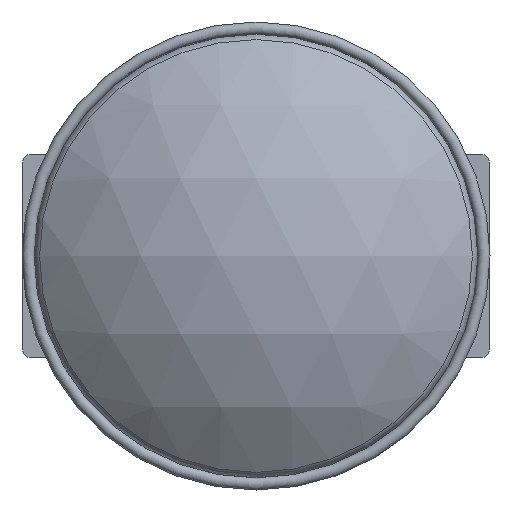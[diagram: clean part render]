
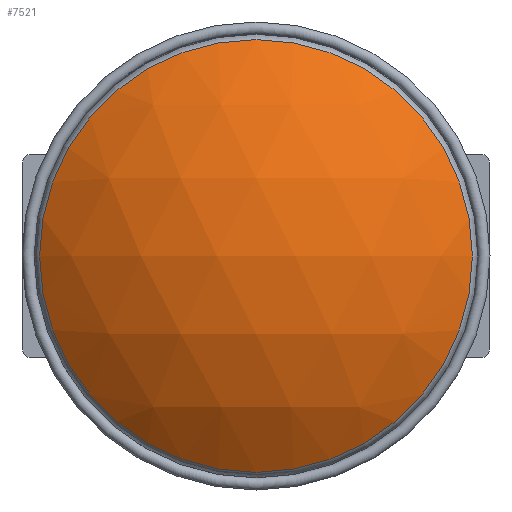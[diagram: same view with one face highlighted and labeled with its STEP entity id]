
A CAD part, front view. The second image highlights one B-rep face of the part: STEP entity #7521.
In plain terms, the highlighted spherical face has radius 70.739 mm.
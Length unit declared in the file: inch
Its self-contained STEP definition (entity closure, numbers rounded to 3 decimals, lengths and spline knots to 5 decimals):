
#7505=CARTESIAN_POINT('',(0.0,2.785,0.0));
#7506=DIRECTION('',(0.0,0.0,1.0));
#7507=DIRECTION('',(1.0,0.0,0.0));
#7508=AXIS2_PLACEMENT_3D('',#7505,#7506,#7507);
#7509=SPHERICAL_SURFACE('',#7508,2.785);
#7510=CARTESIAN_POINT('',(1.79036,0.65173,0.0));
#7511=VERTEX_POINT('',#7510);
#7512=CARTESIAN_POINT('',(0.0,0.65173,0.0));
#7513=DIRECTION('',(0.0,-1.0,0.0));
#7514=DIRECTION('',(1.0,0.0,0.0));
#7515=AXIS2_PLACEMENT_3D('',#7512,#7513,#7514);
#7516=CIRCLE('',#7515,1.79036);
#7517=EDGE_CURVE('',#7511,#7511,#7516,.T.);
#7518=ORIENTED_EDGE('',*,*,#7517,.T.);
#7519=EDGE_LOOP('',(#7518));
#7520=FACE_OUTER_BOUND('',#7519,.T.);
#7521=ADVANCED_FACE('',(#7520),#7509,.T.);
